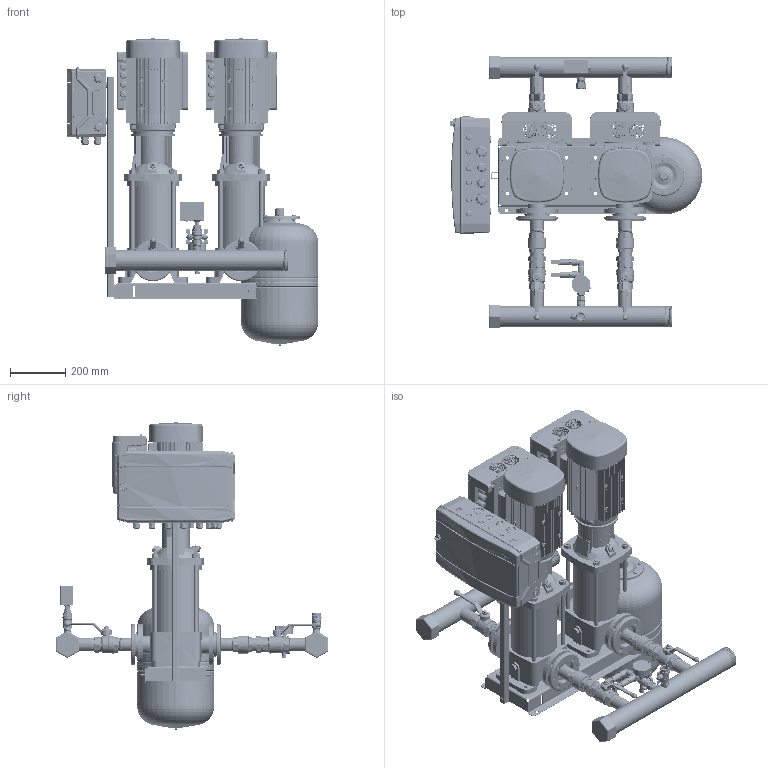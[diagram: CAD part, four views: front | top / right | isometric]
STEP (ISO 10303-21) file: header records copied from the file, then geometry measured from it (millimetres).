
FILE_DESCRIPTION(('CATIA V5 STEP Exchange','CAx-IF Rec.Pracs.--- Model Styling and Organization---1.4--- 2014-01-23','CAx-IF Rec.Pracs.---3D Tessellated Data Validation Properties---0.5---2014-09-14'),'2;1');
FILE_NAME('C:\Users\78432\YandexDisk\Drawings and 3D\3D Hydro Booster\Hydro-ME 3D\Hydro Models\Hydro ME 2 CRV10-xx\Hydro ME 2 CRVE10-8 (DIN).stp','2023-09-20T10:02:31+00:00',('none'),('none'),'CATIA Version 5-6 Release 2019 SP6','CATIA V5 STEP AP242 v1','none');
FILE_SCHEMA(('AP242_MANAGED_MODEL_BASED_3D_ENGINEERING_MIM_LF {1 0 10303 442 1 1 4}'));
Length unit declared in the file: millimetre
Products named in the file (49): Hydro ME 2 CRVE10-8 (DIN); 92051008; CRV10-8 Set (DIN); CRV 10-8_A_DIN_3kW; Base; Sleeve; Pumphead; Staybolt.1; Staybolt.2; Staybolt.3; Staybolt.4; Plug; AirVent; Motor; 00id2582; Adapter DN40-1,5" (96619634); 91040268; 91070086; 99110034; Hydraulica NY DN32 1,5 PN16; 92807557_9013-05; DN40_FM_LV_47.303.40; DN40_FF_LV_47.301; SAJ PDH30 4-7,5kW; 97941444; 405801; 405816; 91040267; 97941481; 00ID7527; Holder and CP 18mod; 92878909; Control ME (18mod); 2 sensors + manometer cpl.; manometr 16 bar; RPD-I-G1_2; 9021-01; 2070 1/2-1/2; _2020 1/2-1/2; 98594078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
Assembly tree (57 placements, depth 4):
  Hydro ME 2 CRVE10-8 (DIN)
    92051008
    CRV10-8 Set (DIN)  x2
      CRV 10-8_A_DIN_3kW
        Base
        Sleeve
        Pumphead
        Staybolt.1
        Staybolt.2
        Staybolt.3
        Staybolt.4
        Plug
        AirVent
        Motor
      00id2582
      Adapter DN40-1,5" (96619634)
        91040268
        91070086
        99110034
      Hydraulica NY DN32 1,5 PN16
      92807557_9013-05
      DN40_FM_LV_47.303.40
      DN40_FF_LV_47.301
      SAJ PDH30 4-7,5kW
    97941444  x2
      405801
      405816
      91040267
      97941481
    00ID7527  x2
    Holder and CP 18mod
      92878909
      Control ME (18mod)
    2 sensors + manometer cpl.
      manometr 16 bar
      RPD-I-G1_2  x2
      9021-01
      2070 1/2-1/2
      _2020 1/2-1/2
      98594078
    Tank 24L cpl.
      DN20_FF_BF_47.300.20
      9021-03
    Relay cpl.
      Relay RD-2R
      DN20_FF_BF_47.300.20
      2530 3/4-1/2
      _2530 1/2-1/4
    91078139
  WAV-24(D140 1'')
Bounding box: 916.82 x 989.22 x 1114.93 mm (x, y, z)
Volume: 76891948.2 mm3; surface area: 7642077.4 mm2
Topology: 192 solids, 424 shells, 27237 faces, 77512 edges, 51822 vertices
Faces by surface type: plane 11050, cylinder 6755, bspline 6516, cone 2089, torus 496, sphere 201, extrusion 130
Entity records: 725976 total; most frequent: CARTESIAN_POINT 365963, ORIENTED_EDGE 92521, EDGE_CURVE 46801, DIRECTION 42311, VERTEX_POINT 31229, VECTOR 19389, LINE 19324, B_SPLINE_CURVE_WITH_KNOTS 18588
